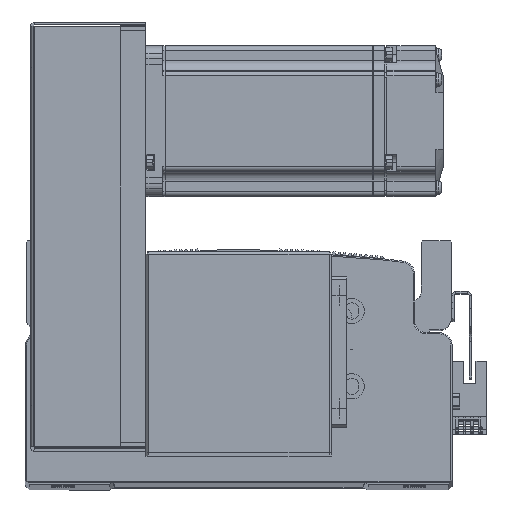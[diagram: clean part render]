
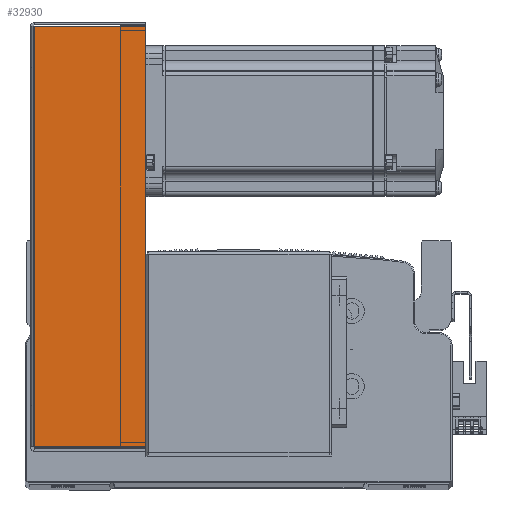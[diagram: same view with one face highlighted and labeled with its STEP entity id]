
A CAD part, top view. The second image highlights one B-rep face of the part: STEP entity #32930.
In plain terms, the highlighted planar face has unit normal (0, 0, 1) as drawn and (0, 0, -1) by its records, which use the part's own axes.
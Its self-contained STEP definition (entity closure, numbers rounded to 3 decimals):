
#14343 = FACE_OUTER_BOUND ( 'NONE', #54548, .T. ) ;
#16977 = DIRECTION ( 'NONE',  ( 0., -1., 0. ) ) ;
#16994 = CARTESIAN_POINT ( 'NONE',  ( 0., 0., -40.5 ) ) ;
#17020 = PLANE ( 'NONE',  #20530 ) ;
#17039 = DIRECTION ( 'NONE',  ( 0., 0., 1. ) ) ;
#20530 = AXIS2_PLACEMENT_3D ( 'NONE', #16994, #17039, #16977 ) ;
#32930 = ADVANCED_FACE ( 'NONE', ( #14343 ), #17020, .F. ) ;
#35063 = DIRECTION ( 'NONE',  ( 0., 1., 0. ) ) ;
#35136 = CARTESIAN_POINT ( 'NONE',  ( -83.793, 0., -40.5 ) ) ;
#35178 = DIRECTION ( 'NONE',  ( 1., 0., 0. ) ) ;
#35191 = CARTESIAN_POINT ( 'NONE',  ( 84.5, 45., -40.5 ) ) ;
#35209 = CARTESIAN_POINT ( 'NONE',  ( 0., 0.737, -40.5 ) ) ;
#35212 = DIRECTION ( 'NONE',  ( 1., 0., 0. ) ) ;
#45278 = VECTOR ( 'NONE', #35178, 1000. ) ;
#45281 = LINE ( 'NONE', #35191, #45320 ) ;
#45297 = LINE ( 'NONE', #35136, #45302 ) ;
#45300 = LINE ( 'NONE', #35209, #45278 ) ;
#45302 = VECTOR ( 'NONE', #35063, 1000. ) ;
#45320 = VECTOR ( 'NONE', #35212, 1000. ) ;
#45371 = LINE ( 'NONE', #66412, #45373 ) ;
#45373 = VECTOR ( 'NONE', #66447, 1000. ) ;
#46724 = ORIENTED_EDGE ( 'NONE', *, *, #47856, .T. ) ;
#46754 = ORIENTED_EDGE ( 'NONE', *, *, #47875, .T. ) ;
#46773 = ORIENTED_EDGE ( 'NONE', *, *, #47973, .F. ) ;
#46805 = ORIENTED_EDGE ( 'NONE', *, *, #47862, .F. ) ;
#47856 = EDGE_CURVE ( 'NONE', #71490, #71487, #45297, .T. ) ;
#47862 = EDGE_CURVE ( 'NONE', #71490, #71467, #45300, .T. ) ;
#47875 = EDGE_CURVE ( 'NONE', #71487, #71561, #45281, .T. ) ;
#47973 = EDGE_CURVE ( 'NONE', #71467, #71561, #45371, .T. ) ;
#54548 = EDGE_LOOP ( 'NONE', ( #46805, #46724, #46754, #46773 ) ) ;
#66412 = CARTESIAN_POINT ( 'NONE',  ( 83.793, 0., -40.5 ) ) ;
#66447 = DIRECTION ( 'NONE',  ( 0., 1., 0. ) ) ;
#67919 = CARTESIAN_POINT ( 'NONE',  ( -83.793, 0.737, -40.5 ) ) ;
#67926 = CARTESIAN_POINT ( 'NONE',  ( -83.793, 45., -40.5 ) ) ;
#67961 = CARTESIAN_POINT ( 'NONE',  ( 83.793, 45., -40.5 ) ) ;
#67966 = CARTESIAN_POINT ( 'NONE',  ( 83.793, 0.737, -40.5 ) ) ;
#71467 = VERTEX_POINT ( 'NONE', #67966 ) ;
#71487 = VERTEX_POINT ( 'NONE', #67926 ) ;
#71490 = VERTEX_POINT ( 'NONE', #67919 ) ;
#71561 = VERTEX_POINT ( 'NONE', #67961 ) ;
